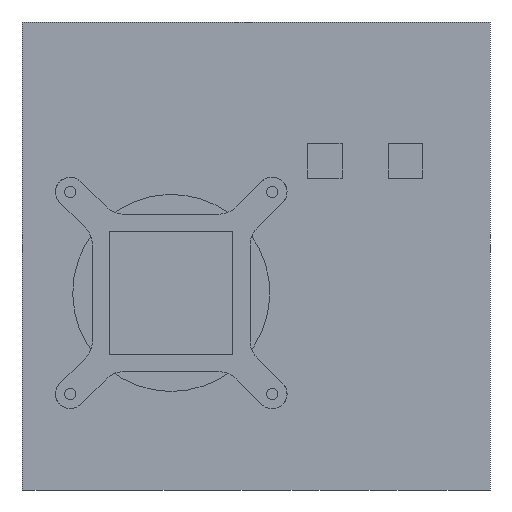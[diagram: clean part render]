
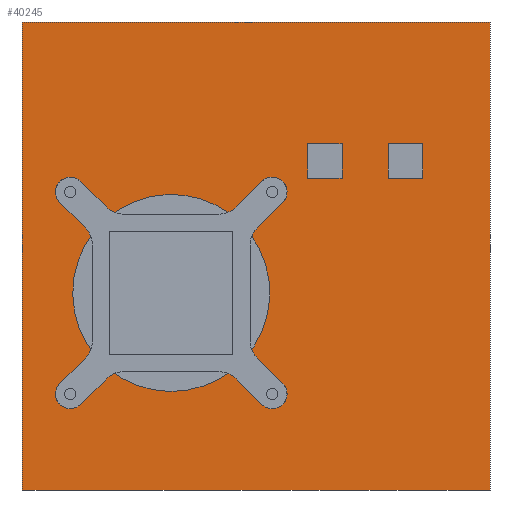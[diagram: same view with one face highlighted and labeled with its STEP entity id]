
A CAD part, front view. The second image highlights one B-rep face of the part: STEP entity #40245.
In plain terms, the highlighted planar face has unit normal (0, -1, 0).
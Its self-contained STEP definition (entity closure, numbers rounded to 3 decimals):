
#18=DIRECTION('',(1.,0.,0.));
#19=VECTOR('',#18,95.);
#20=CARTESIAN_POINT('',(0.,3.,-57.5));
#21=LINE('',#20,#19);
#6642=CARTESIAN_POINT('',(30.3,3.,-17.5));
#6643=DIRECTION('',(0.,-1.,0.));
#6644=DIRECTION('',(0.6,0.,0.8));
#6645=AXIS2_PLACEMENT_3D('',#6642,#6643,#6644);
#6647=CARTESIAN_POINT('',(30.3,3.,-17.5));
#6648=DIRECTION('',(0.,1.,0.));
#6649=DIRECTION('',(0.6,0.,0.8));
#6650=AXIS2_PLACEMENT_3D('',#6647,#6648,#6649);
#6652=DIRECTION('',(0.,0.,-1.));
#6653=VECTOR('',#6652,7.);
#6654=CARTESIAN_POINT('',(57.965,3.,12.809));
#6655=LINE('',#6654,#6653);
#6656=DIRECTION('',(1.,0.,0.));
#6657=VECTOR('',#6656,7.);
#6658=CARTESIAN_POINT('',(57.965,3.,5.809));
#6659=LINE('',#6658,#6657);
#6660=DIRECTION('',(0.,0.,1.));
#6661=VECTOR('',#6660,7.);
#6662=CARTESIAN_POINT('',(64.965,3.,5.809));
#6663=LINE('',#6662,#6661);
#6664=DIRECTION('',(-1.,0.,0.));
#6665=VECTOR('',#6664,7.);
#6666=CARTESIAN_POINT('',(64.965,3.,12.809));
#6667=LINE('',#6666,#6665);
#6668=DIRECTION('',(0.,0.,-1.));
#6669=VECTOR('',#6668,7.);
#6670=CARTESIAN_POINT('',(74.348,3.,12.809));
#6671=LINE('',#6670,#6669);
#6672=DIRECTION('',(1.,0.,0.));
#6673=VECTOR('',#6672,7.);
#6674=CARTESIAN_POINT('',(74.348,3.,5.809));
#6675=LINE('',#6674,#6673);
#6676=DIRECTION('',(0.,0.,1.));
#6677=VECTOR('',#6676,7.);
#6678=CARTESIAN_POINT('',(81.348,3.,5.809));
#6679=LINE('',#6678,#6677);
#6680=DIRECTION('',(-1.,0.,0.));
#6681=VECTOR('',#6680,7.);
#6682=CARTESIAN_POINT('',(81.348,3.,12.809));
#6683=LINE('',#6682,#6681);
#6684=DIRECTION('',(0.,0.,1.));
#6685=VECTOR('',#6684,95.);
#6686=CARTESIAN_POINT('',(0.,3.,-57.5));
#6687=LINE('',#6686,#6685);
#6706=DIRECTION('',(1.,0.,0.));
#6707=VECTOR('',#6706,95.);
#6708=CARTESIAN_POINT('',(0.,3.,37.5));
#6709=LINE('',#6708,#6707);
#14789=CARTESIAN_POINT('',(9.8,3.,3.));
#14790=DIRECTION('',(0.,-1.,0.));
#14791=DIRECTION('',(1.,0.,0.));
#14792=AXIS2_PLACEMENT_3D('',#14789,#14790,#14791);
#14803=CARTESIAN_POINT('',(9.8,3.,3.));
#14804=DIRECTION('',(0.,-1.,0.));
#14805=DIRECTION('',(-1.,0.,0.));
#14806=AXIS2_PLACEMENT_3D('',#14803,#14804,#14805);
#14817=CARTESIAN_POINT('',(50.8,3.,3.));
#14818=DIRECTION('',(0.,-1.,0.));
#14819=DIRECTION('',(1.,0.,0.));
#14820=AXIS2_PLACEMENT_3D('',#14817,#14818,#14819);
#14831=CARTESIAN_POINT('',(50.8,3.,3.));
#14832=DIRECTION('',(0.,-1.,0.));
#14833=DIRECTION('',(-1.,0.,0.));
#14834=AXIS2_PLACEMENT_3D('',#14831,#14832,#14833);
#14845=CARTESIAN_POINT('',(9.8,3.,-38.));
#14846=DIRECTION('',(0.,-1.,0.));
#14847=DIRECTION('',(1.,0.,0.));
#14848=AXIS2_PLACEMENT_3D('',#14845,#14846,#14847);
#14859=CARTESIAN_POINT('',(9.8,3.,-38.));
#14860=DIRECTION('',(0.,-1.,0.));
#14861=DIRECTION('',(-1.,0.,0.));
#14862=AXIS2_PLACEMENT_3D('',#14859,#14860,#14861);
#14873=CARTESIAN_POINT('',(50.8,3.,-38.));
#14874=DIRECTION('',(0.,-1.,0.));
#14875=DIRECTION('',(1.,0.,0.));
#14876=AXIS2_PLACEMENT_3D('',#14873,#14874,#14875);
#14887=CARTESIAN_POINT('',(50.8,3.,-38.));
#14888=DIRECTION('',(0.,-1.,0.));
#14889=DIRECTION('',(-1.,0.,0.));
#14890=AXIS2_PLACEMENT_3D('',#14887,#14888,#14889);
#28538=DIRECTION('',(0.,0.,1.));
#28539=VECTOR('',#28538,95.);
#28540=CARTESIAN_POINT('',(95.,3.,-57.5));
#28541=LINE('',#28540,#28539);
#28624=CARTESIAN_POINT('',(11.85,3.,3.));
#28625=CARTESIAN_POINT('',(7.75,3.,3.));
#28626=VERTEX_POINT('',#28624);
#28627=VERTEX_POINT('',#28625);
#28628=CARTESIAN_POINT('',(11.85,3.,-38.));
#28629=CARTESIAN_POINT('',(7.75,3.,-38.));
#28630=VERTEX_POINT('',#28628);
#28631=VERTEX_POINT('',#28629);
#28632=CARTESIAN_POINT('',(52.85,3.,-38.));
#28633=CARTESIAN_POINT('',(48.75,3.,-38.));
#28634=VERTEX_POINT('',#28632);
#28635=VERTEX_POINT('',#28633);
#28636=CARTESIAN_POINT('',(52.85,3.,3.));
#28637=CARTESIAN_POINT('',(48.75,3.,3.));
#28638=VERTEX_POINT('',#28636);
#28639=VERTEX_POINT('',#28637);
#34205=CARTESIAN_POINT('',(0.,3.,37.5));
#34206=CARTESIAN_POINT('',(95.,3.,37.5));
#34207=VERTEX_POINT('',#34205);
#34208=VERTEX_POINT('',#34206);
#37158=CARTESIAN_POINT('',(0.,3.,-57.5));
#37159=CARTESIAN_POINT('',(95.,3.,-57.5));
#37160=VERTEX_POINT('',#37158);
#37161=VERTEX_POINT('',#37159);
#37162=CARTESIAN_POINT('',(42.3,3.,-1.5));
#37163=CARTESIAN_POINT('',(46.3,3.,-5.5));
#37164=VERTEX_POINT('',#37162);
#37165=VERTEX_POINT('',#37163);
#37186=CARTESIAN_POINT('',(57.965,3.,12.809));
#37187=CARTESIAN_POINT('',(57.965,3.,5.809));
#37188=VERTEX_POINT('',#37186);
#37189=VERTEX_POINT('',#37187);
#37190=CARTESIAN_POINT('',(64.965,3.,5.809));
#37191=VERTEX_POINT('',#37190);
#37192=CARTESIAN_POINT('',(64.965,3.,12.809));
#37193=VERTEX_POINT('',#37192);
#37194=CARTESIAN_POINT('',(74.348,3.,12.809));
#37195=CARTESIAN_POINT('',(74.348,3.,5.809));
#37196=VERTEX_POINT('',#37194);
#37197=VERTEX_POINT('',#37195);
#37198=CARTESIAN_POINT('',(81.348,3.,5.809));
#37199=VERTEX_POINT('',#37198);
#37200=CARTESIAN_POINT('',(81.348,3.,12.809));
#37201=VERTEX_POINT('',#37200);
#40181=CARTESIAN_POINT('',(0.,3.,-47.5));
#40182=DIRECTION('',(0.,-1.,0.));
#40183=DIRECTION('',(1.,0.,0.));
#40184=AXIS2_PLACEMENT_3D('',#40181,#40182,#40183);
#40185=PLANE('',#40184);
#40186=ORIENTED_EDGE('',*,*,#37223,.F.);
#40188=ORIENTED_EDGE('',*,*,#40187,.T.);
#40190=ORIENTED_EDGE('',*,*,#40189,.T.);
#40192=ORIENTED_EDGE('',*,*,#40191,.F.);
#40193=EDGE_LOOP('',(#40186,#40188,#40190,#40192));
#40194=FACE_OUTER_BOUND('',#40193,.F.);
#40196=ORIENTED_EDGE('',*,*,#40195,.T.);
#40198=ORIENTED_EDGE('',*,*,#40197,.T.);
#40199=EDGE_LOOP('',(#40196,#40198));
#40200=FACE_BOUND('',#40199,.F.);
#40202=ORIENTED_EDGE('',*,*,#40201,.T.);
#40204=ORIENTED_EDGE('',*,*,#40203,.T.);
#40205=EDGE_LOOP('',(#40202,#40204));
#40206=FACE_BOUND('',#40205,.F.);
#40208=ORIENTED_EDGE('',*,*,#40207,.T.);
#40210=ORIENTED_EDGE('',*,*,#40209,.T.);
#40211=EDGE_LOOP('',(#40208,#40210));
#40212=FACE_BOUND('',#40211,.F.);
#40214=ORIENTED_EDGE('',*,*,#40213,.T.);
#40216=ORIENTED_EDGE('',*,*,#40215,.T.);
#40217=EDGE_LOOP('',(#40214,#40216));
#40218=FACE_BOUND('',#40217,.F.);
#40220=ORIENTED_EDGE('',*,*,#40219,.T.);
#40222=ORIENTED_EDGE('',*,*,#40221,.F.);
#40223=EDGE_LOOP('',(#40220,#40222));
#40224=FACE_BOUND('',#40223,.F.);
#40226=ORIENTED_EDGE('',*,*,#40225,.T.);
#40228=ORIENTED_EDGE('',*,*,#40227,.T.);
#40230=ORIENTED_EDGE('',*,*,#40229,.T.);
#40232=ORIENTED_EDGE('',*,*,#40231,.T.);
#40233=EDGE_LOOP('',(#40226,#40228,#40230,#40232));
#40234=FACE_BOUND('',#40233,.F.);
#40236=ORIENTED_EDGE('',*,*,#40235,.T.);
#40238=ORIENTED_EDGE('',*,*,#40237,.T.);
#40240=ORIENTED_EDGE('',*,*,#40239,.T.);
#40242=ORIENTED_EDGE('',*,*,#40241,.T.);
#40243=EDGE_LOOP('',(#40236,#40238,#40240,#40242));
#40244=FACE_BOUND('',#40243,.F.);
#40245=ADVANCED_FACE('',(#40194,#40200,#40206,#40212,#40218,#40224,#40234,
#40244),#40185,.T.);
#6646=CIRCLE('',#6645,20.);
#6651=CIRCLE('',#6650,20.);
#14793=CIRCLE('',#14792,2.05);
#14807=CIRCLE('',#14806,2.05);
#14821=CIRCLE('',#14820,2.05);
#14835=CIRCLE('',#14834,2.05);
#14849=CIRCLE('',#14848,2.05);
#14863=CIRCLE('',#14862,2.05);
#14877=CIRCLE('',#14876,2.05);
#14891=CIRCLE('',#14890,2.05);
#37223=EDGE_CURVE('',#37160,#37161,#21,.T.);
#40187=EDGE_CURVE('',#37160,#34207,#6687,.T.);
#40189=EDGE_CURVE('',#34207,#34208,#6709,.T.);
#40191=EDGE_CURVE('',#37161,#34208,#28541,.T.);
#40195=EDGE_CURVE('',#28626,#28627,#14793,.T.);
#40197=EDGE_CURVE('',#28627,#28626,#14807,.T.);
#40201=EDGE_CURVE('',#28630,#28631,#14849,.T.);
#40203=EDGE_CURVE('',#28631,#28630,#14863,.T.);
#40207=EDGE_CURVE('',#28634,#28635,#14877,.T.);
#40209=EDGE_CURVE('',#28635,#28634,#14891,.T.);
#40213=EDGE_CURVE('',#28638,#28639,#14821,.T.);
#40215=EDGE_CURVE('',#28639,#28638,#14835,.T.);
#40219=EDGE_CURVE('',#37164,#37165,#6646,.T.);
#40221=EDGE_CURVE('',#37164,#37165,#6651,.T.);
#40225=EDGE_CURVE('',#37188,#37189,#6655,.T.);
#40227=EDGE_CURVE('',#37189,#37191,#6659,.T.);
#40229=EDGE_CURVE('',#37191,#37193,#6663,.T.);
#40231=EDGE_CURVE('',#37193,#37188,#6667,.T.);
#40235=EDGE_CURVE('',#37196,#37197,#6671,.T.);
#40237=EDGE_CURVE('',#37197,#37199,#6675,.T.);
#40239=EDGE_CURVE('',#37199,#37201,#6679,.T.);
#40241=EDGE_CURVE('',#37201,#37196,#6683,.T.);
